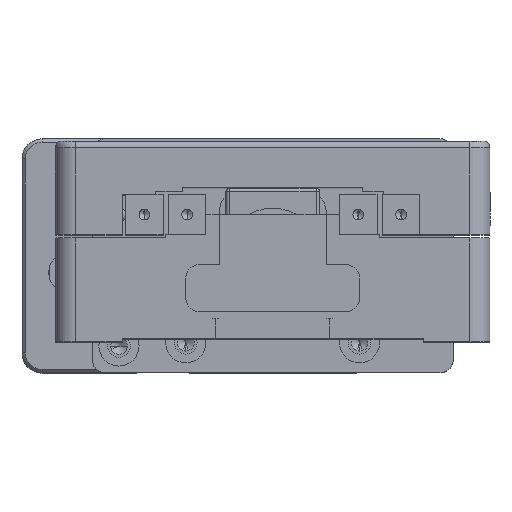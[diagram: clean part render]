
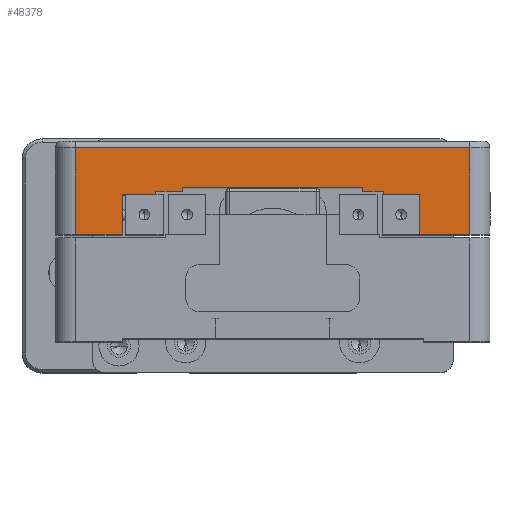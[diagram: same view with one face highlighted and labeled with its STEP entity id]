
A CAD part, top view. The second image highlights one B-rep face of the part: STEP entity #48378.
In plain terms, the highlighted planar face has unit normal (0, 0, 1).
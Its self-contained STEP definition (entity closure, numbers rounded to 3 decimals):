
#612 = VERTEX_POINT ( 'NONE', #9253 ) ;
#1006 = VECTOR ( 'NONE', #51710, 1000. ) ;
#1098 = ORIENTED_EDGE ( 'NONE', *, *, #27753, .T. ) ;
#3104 = DIRECTION ( 'NONE',  ( -1., 0., 0. ) ) ;
#3260 = EDGE_CURVE ( 'NONE', #15822, #14855, #20523, .T. ) ;
#3477 = LINE ( 'NONE', #52170, #1006 ) ;
#3491 = ORIENTED_EDGE ( 'NONE', *, *, #48926, .T. ) ;
#4052 = VERTEX_POINT ( 'NONE', #12436 ) ;
#4364 = DIRECTION ( 'NONE',  ( 0., 1., 0. ) ) ;
#5617 = CARTESIAN_POINT ( 'NONE',  ( 23.071, 5.662, 36.58 ) ) ;
#6090 = VECTOR ( 'NONE', #65988, 1000. ) ;
#6867 = VECTOR ( 'NONE', #7881, 1000. ) ;
#7559 = VECTOR ( 'NONE', #54867, 1000. ) ;
#7881 = DIRECTION ( 'NONE',  ( 0., 1., 0. ) ) ;
#8727 = PLANE ( 'NONE',  #18078 ) ;
#9253 = CARTESIAN_POINT ( 'NONE',  ( 23.071, -0.338, 36.58 ) ) ;
#9430 = CARTESIAN_POINT ( 'NONE',  ( 23.071, 5.662, 36.58 ) ) ;
#10763 = DIRECTION ( 'NONE',  ( 1., 0., 0. ) ) ;
#11998 = CARTESIAN_POINT ( 'NONE',  ( 17.571, 5.662, 36.58 ) ) ;
#12425 = CARTESIAN_POINT ( 'NONE',  ( -21.429, -0.338, 36.58 ) ) ;
#12436 = CARTESIAN_POINT ( 'NONE',  ( -16.429, 5.662, 36.58 ) ) ;
#12624 = EDGE_CURVE ( 'NONE', #17902, #56853, #49065, .T. ) ;
#13484 = ORIENTED_EDGE ( 'NONE', *, *, #55724, .T. ) ;
#14215 = CARTESIAN_POINT ( 'NONE',  ( -21.429, 5.662, 36.58 ) ) ;
#14679 = VERTEX_POINT ( 'NONE', #41367 ) ;
#14855 = VERTEX_POINT ( 'NONE', #57067 ) ;
#15822 = VERTEX_POINT ( 'NONE', #36168 ) ;
#16764 = LINE ( 'NONE', #19868, #66863 ) ;
#17814 = VERTEX_POINT ( 'NONE', #38378 ) ;
#17902 = VERTEX_POINT ( 'NONE', #11998 ) ;
#18078 = AXIS2_PLACEMENT_3D ( 'NONE', #18887, #39406, #3104 ) ;
#18273 = VERTEX_POINT ( 'NONE', #25343 ) ;
#18887 = CARTESIAN_POINT ( 'NONE',  ( -31.429, 13.662, 36.58 ) ) ;
#19061 = ORIENTED_EDGE ( 'NONE', *, *, #46671, .T. ) ;
#19861 = EDGE_CURVE ( 'NONE', #17814, #21915, #3477, .T. ) ;
#19868 = CARTESIAN_POINT ( 'NONE',  ( -21.429, -0.338, 36.58 ) ) ;
#20523 = LINE ( 'NONE', #39707, #7559 ) ;
#20682 = VECTOR ( 'NONE', #55767, 1000. ) ;
#20982 = DIRECTION ( 'NONE',  ( 1., 0., 0. ) ) ;
#21442 = EDGE_LOOP ( 'NONE', ( #49765, #49627, #63423, #53715, #59619, #27820, #1098, #56922, #45801, #37283, #56441, #3491, #19061, #43271, #13484, #25661 ) ) ;
#21915 = VERTEX_POINT ( 'NONE', #25695 ) ;
#22280 = CARTESIAN_POINT ( 'NONE',  ( -12.429, 6.662, 36.58 ) ) ;
#23135 = CARTESIAN_POINT ( 'NONE',  ( -16.429, 6.162, 36.58 ) ) ;
#23178 = VECTOR ( 'NONE', #20982, 1000. ) ;
#24037 = CARTESIAN_POINT ( 'NONE',  ( -12.429, 6.162, 36.58 ) ) ;
#25343 = CARTESIAN_POINT ( 'NONE',  ( 30.571, -0.338, 36.58 ) ) ;
#25661 = ORIENTED_EDGE ( 'NONE', *, *, #39307, .T. ) ;
#25695 = CARTESIAN_POINT ( 'NONE',  ( -28.429, -0.338, 36.58 ) ) ;
#26071 = CARTESIAN_POINT ( 'NONE',  ( 33.571, -0.338, 36.58 ) ) ;
#26785 = CARTESIAN_POINT ( 'NONE',  ( 14.571, 6.662, 36.58 ) ) ;
#27753 = EDGE_CURVE ( 'NONE', #4052, #14679, #66583, .T. ) ;
#27820 = ORIENTED_EDGE ( 'NONE', *, *, #55245, .T. ) ;
#28052 = CARTESIAN_POINT ( 'NONE',  ( 17.571, 6.162, 36.58 ) ) ;
#28267 = CARTESIAN_POINT ( 'NONE',  ( 17.571, 5.662, 36.58 ) ) ;
#28291 = DIRECTION ( 'NONE',  ( 1., 0., 0. ) ) ;
#28938 = VECTOR ( 'NONE', #38637, 1000. ) ;
#29063 = VECTOR ( 'NONE', #28291, 1000. ) ;
#29786 = DIRECTION ( 'NONE',  ( 1., 0., 0. ) ) ;
#30634 = LINE ( 'NONE', #47907, #45199 ) ;
#30750 = CARTESIAN_POINT ( 'NONE',  ( 17.571, 6.162, 36.58 ) ) ;
#31229 = CARTESIAN_POINT ( 'NONE',  ( -16.429, 5.662, 36.58 ) ) ;
#33519 = DIRECTION ( 'NONE',  ( 1., 0., 0. ) ) ;
#33630 = CARTESIAN_POINT ( 'NONE',  ( -12.429, 6.662, 36.58 ) ) ;
#35078 = CARTESIAN_POINT ( 'NONE',  ( 30.571, 13.662, 36.58 ) ) ;
#36168 = CARTESIAN_POINT ( 'NONE',  ( 14.571, 6.662, 36.58 ) ) ;
#37027 = EDGE_CURVE ( 'NONE', #53362, #65869, #39967, .T. ) ;
#37283 = ORIENTED_EDGE ( 'NONE', *, *, #64013, .T. ) ;
#37696 = DIRECTION ( 'NONE',  ( 0., -1., 0. ) ) ;
#38378 = CARTESIAN_POINT ( 'NONE',  ( -28.429, 12.662, 36.58 ) ) ;
#38637 = DIRECTION ( 'NONE',  ( 0., -1., 0. ) ) ;
#39307 = EDGE_CURVE ( 'NONE', #612, #18273, #45467, .T. ) ;
#39406 = DIRECTION ( 'NONE',  ( 0., 0., -1. ) ) ;
#39707 = CARTESIAN_POINT ( 'NONE',  ( 14.571, 6.162, 36.58 ) ) ;
#39967 = LINE ( 'NONE', #33630, #6867 ) ;
#41227 = CARTESIAN_POINT ( 'NONE',  ( -31.429, 12.662, 36.58 ) ) ;
#41367 = CARTESIAN_POINT ( 'NONE',  ( -16.429, 6.162, 36.58 ) ) ;
#42643 = DIRECTION ( 'NONE',  ( 1., 0., 0. ) ) ;
#43271 = ORIENTED_EDGE ( 'NONE', *, *, #12624, .T. ) ;
#44340 = LINE ( 'NONE', #28267, #28938 ) ;
#44432 = VERTEX_POINT ( 'NONE', #28052 ) ;
#45199 = VECTOR ( 'NONE', #37696, 1000. ) ;
#45467 = LINE ( 'NONE', #26071, #46233 ) ;
#45801 = ORIENTED_EDGE ( 'NONE', *, *, #37027, .T. ) ;
#45843 = VECTOR ( 'NONE', #4364, 1000. ) ;
#45845 = VERTEX_POINT ( 'NONE', #12425 ) ;
#46233 = VECTOR ( 'NONE', #10763, 1000. ) ;
#46427 = DIRECTION ( 'NONE',  ( -1., 0., 0. ) ) ;
#46671 = EDGE_CURVE ( 'NONE', #44432, #17902, #44340, .T. ) ;
#46697 = LINE ( 'NONE', #23135, #65231 ) ;
#47907 = CARTESIAN_POINT ( 'NONE',  ( 23.071, -0.338, 36.58 ) ) ;
#48073 = EDGE_CURVE ( 'NONE', #45845, #63440, #57862, .T. ) ;
#48378 = ADVANCED_FACE ( 'NONE', ( #53016 ), #8727, .F. ) ;
#48926 = EDGE_CURVE ( 'NONE', #14855, #44432, #62638, .T. ) ;
#49065 = LINE ( 'NONE', #5617, #23178 ) ;
#49565 = EDGE_CURVE ( 'NONE', #53033, #17814, #55281, .T. ) ;
#49627 = ORIENTED_EDGE ( 'NONE', *, *, #49565, .T. ) ;
#49765 = ORIENTED_EDGE ( 'NONE', *, *, #57548, .T. ) ;
#49789 = LINE ( 'NONE', #26785, #56254 ) ;
#50557 = CARTESIAN_POINT ( 'NONE',  ( 30.571, 12.662, 36.58 ) ) ;
#51710 = DIRECTION ( 'NONE',  ( 0., -1., 0. ) ) ;
#52170 = CARTESIAN_POINT ( 'NONE',  ( -28.429, 13.662, 36.58 ) ) ;
#53016 = FACE_OUTER_BOUND ( 'NONE', #21442, .T. ) ;
#53033 = VERTEX_POINT ( 'NONE', #50557 ) ;
#53332 = LINE ( 'NONE', #59449, #29063 ) ;
#53362 = VERTEX_POINT ( 'NONE', #24037 ) ;
#53715 = ORIENTED_EDGE ( 'NONE', *, *, #61573, .T. ) ;
#54385 = CARTESIAN_POINT ( 'NONE',  ( -21.429, 5.662, 36.58 ) ) ;
#54867 = DIRECTION ( 'NONE',  ( 0., -1., 0. ) ) ;
#55245 = EDGE_CURVE ( 'NONE', #63440, #4052, #53332, .T. ) ;
#55281 = LINE ( 'NONE', #41227, #64142 ) ;
#55724 = EDGE_CURVE ( 'NONE', #56853, #612, #30634, .T. ) ;
#55767 = DIRECTION ( 'NONE',  ( 0., 1., 0. ) ) ;
#56254 = VECTOR ( 'NONE', #42643, 1000. ) ;
#56313 = LINE ( 'NONE', #35078, #45843 ) ;
#56441 = ORIENTED_EDGE ( 'NONE', *, *, #3260, .T. ) ;
#56853 = VERTEX_POINT ( 'NONE', #9430 ) ;
#56922 = ORIENTED_EDGE ( 'NONE', *, *, #57233, .T. ) ;
#57067 = CARTESIAN_POINT ( 'NONE',  ( 14.571, 6.162, 36.58 ) ) ;
#57233 = EDGE_CURVE ( 'NONE', #14679, #53362, #46697, .T. ) ;
#57548 = EDGE_CURVE ( 'NONE', #18273, #53033, #56313, .T. ) ;
#57643 = DIRECTION ( 'NONE',  ( 0., 1., 0. ) ) ;
#57720 = VECTOR ( 'NONE', #57643, 1000. ) ;
#57862 = LINE ( 'NONE', #14215, #20682 ) ;
#59449 = CARTESIAN_POINT ( 'NONE',  ( -21.429, 5.662, 36.58 ) ) ;
#59619 = ORIENTED_EDGE ( 'NONE', *, *, #48073, .T. ) ;
#61573 = EDGE_CURVE ( 'NONE', #21915, #45845, #16764, .T. ) ;
#62638 = LINE ( 'NONE', #30750, #6090 ) ;
#63423 = ORIENTED_EDGE ( 'NONE', *, *, #19861, .T. ) ;
#63440 = VERTEX_POINT ( 'NONE', #54385 ) ;
#64013 = EDGE_CURVE ( 'NONE', #65869, #15822, #49789, .T. ) ;
#64142 = VECTOR ( 'NONE', #46427, 1000. ) ;
#65231 = VECTOR ( 'NONE', #33519, 1000. ) ;
#65869 = VERTEX_POINT ( 'NONE', #22280 ) ;
#65988 = DIRECTION ( 'NONE',  ( 1., 0., 0. ) ) ;
#66583 = LINE ( 'NONE', #31229, #57720 ) ;
#66863 = VECTOR ( 'NONE', #29786, 1000. ) ;
